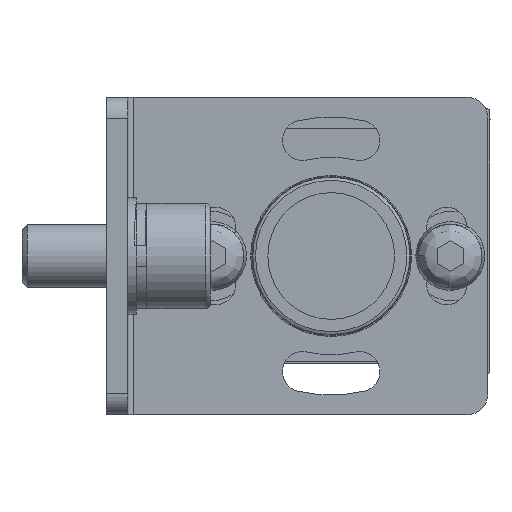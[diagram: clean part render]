
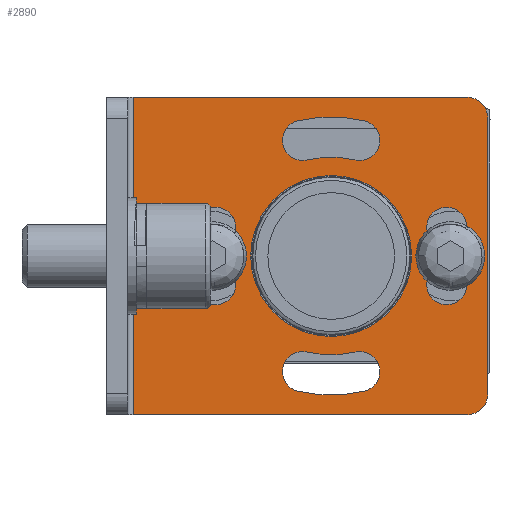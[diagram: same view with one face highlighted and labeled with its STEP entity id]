
A CAD part, front view. The second image highlights one B-rep face of the part: STEP entity #2890.
In plain terms, the highlighted planar face has unit normal (0, -1, 0).
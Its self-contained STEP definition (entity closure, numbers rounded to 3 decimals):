
#692=LINE('',#40684,#1452);
#697=LINE('',#40696,#1457);
#703=LINE('',#40712,#1463);
#707=LINE('',#40736,#1467);
#1452=VECTOR('',#13263,1.);
#1457=VECTOR('',#13272,1.);
#1463=VECTOR('',#13290,1.);
#1467=VECTOR('',#13320,1.);
#1962=PLANE('',#11082);
#2299=FACE_BOUND('',#4309,.T.);
#2300=FACE_BOUND('',#4310,.T.);
#2301=FACE_BOUND('',#4311,.T.);
#2302=FACE_BOUND('',#4312,.T.);
#2303=FACE_BOUND('',#4313,.T.);
#2304=FACE_BOUND('',#4314,.T.);
#2890=ADVANCED_FACE('',(#2299,#2300,#2301,#2302,#2303,#2304),#1962,.T.);
#4309=EDGE_LOOP('',(#6781,#6782,#6783,#6784));
#4310=EDGE_LOOP('',(#6785,#6786,#6787,#6788));
#4311=EDGE_LOOP('',(#6789,#6790,#6791,#6792));
#4312=EDGE_LOOP('',(#6793));
#4313=EDGE_LOOP('',(#6794,#6795,#6796,#6797));
#4314=EDGE_LOOP('',(#6798,#6799,#6800,#6801,#6802,#6803));
#6781=ORIENTED_EDGE('',*,*,#9603,.T.);
#6782=ORIENTED_EDGE('',*,*,#9604,.T.);
#6783=ORIENTED_EDGE('',*,*,#9542,.T.);
#6784=ORIENTED_EDGE('',*,*,#9605,.T.);
#6785=ORIENTED_EDGE('',*,*,#9606,.T.);
#6786=ORIENTED_EDGE('',*,*,#9546,.T.);
#6787=ORIENTED_EDGE('',*,*,#9607,.T.);
#6788=ORIENTED_EDGE('',*,*,#9550,.T.);
#6789=ORIENTED_EDGE('',*,*,#9608,.T.);
#6790=ORIENTED_EDGE('',*,*,#9554,.T.);
#6791=ORIENTED_EDGE('',*,*,#9609,.T.);
#6792=ORIENTED_EDGE('',*,*,#9558,.T.);
#6793=ORIENTED_EDGE('',*,*,#9563,.T.);
#6794=ORIENTED_EDGE('',*,*,#9610,.T.);
#6795=ORIENTED_EDGE('',*,*,#9611,.T.);
#6796=ORIENTED_EDGE('',*,*,#9612,.T.);
#6797=ORIENTED_EDGE('',*,*,#9564,.T.);
#6798=ORIENTED_EDGE('',*,*,#9613,.T.);
#6799=ORIENTED_EDGE('',*,*,#9614,.T.);
#6800=ORIENTED_EDGE('',*,*,#9598,.F.);
#6801=ORIENTED_EDGE('',*,*,#9584,.T.);
#6802=ORIENTED_EDGE('',*,*,#9590,.F.);
#6803=ORIENTED_EDGE('',*,*,#9615,.T.);
#8262=VERTEX_POINT('',#40594);
#8263=VERTEX_POINT('',#40595);
#8266=VERTEX_POINT('',#40603);
#8267=VERTEX_POINT('',#40604);
#8270=VERTEX_POINT('',#40612);
#8271=VERTEX_POINT('',#40613);
#8274=VERTEX_POINT('',#40621);
#8275=VERTEX_POINT('',#40622);
#8278=VERTEX_POINT('',#40630);
#8279=VERTEX_POINT('',#40631);
#8283=VERTEX_POINT('',#40641);
#8284=VERTEX_POINT('',#40644);
#8285=VERTEX_POINT('',#40645);
#8298=VERTEX_POINT('',#40681);
#8299=VERTEX_POINT('',#40683);
#8304=VERTEX_POINT('',#40695);
#8309=VERTEX_POINT('',#40713);
#8312=VERTEX_POINT('',#40723);
#8313=VERTEX_POINT('',#40724);
#8314=VERTEX_POINT('',#40732);
#8315=VERTEX_POINT('',#40734);
#8316=VERTEX_POINT('',#40737);
#8317=VERTEX_POINT('',#40738);
#9542=EDGE_CURVE('',#8262,#8263,#10244,.T.);
#9546=EDGE_CURVE('',#8266,#8267,#10246,.T.);
#9550=EDGE_CURVE('',#8270,#8271,#10248,.T.);
#9554=EDGE_CURVE('',#8274,#8275,#10250,.T.);
#9558=EDGE_CURVE('',#8278,#8279,#10252,.T.);
#9563=EDGE_CURVE('',#8283,#8283,#10255,.T.);
#9564=EDGE_CURVE('',#8284,#8285,#10256,.T.);
#9584=EDGE_CURVE('',#8298,#8299,#692,.T.);
#9590=EDGE_CURVE('',#8304,#8299,#697,.T.);
#9598=EDGE_CURVE('',#8298,#8309,#703,.T.);
#9603=EDGE_CURVE('',#8312,#8313,#10268,.T.);
#9604=EDGE_CURVE('',#8313,#8262,#10269,.T.);
#9605=EDGE_CURVE('',#8263,#8312,#10270,.T.);
#9606=EDGE_CURVE('',#8271,#8266,#10271,.T.);
#9607=EDGE_CURVE('',#8267,#8270,#10272,.T.);
#9608=EDGE_CURVE('',#8279,#8274,#10273,.T.);
#9609=EDGE_CURVE('',#8275,#8278,#10274,.T.);
#9610=EDGE_CURVE('',#8285,#8314,#10275,.T.);
#9611=EDGE_CURVE('',#8314,#8315,#10276,.T.);
#9612=EDGE_CURVE('',#8315,#8284,#10277,.T.);
#9613=EDGE_CURVE('',#8316,#8317,#707,.T.);
#9614=EDGE_CURVE('',#8317,#8309,#10278,.T.);
#9615=EDGE_CURVE('',#8304,#8316,#10279,.T.);
#10244=CIRCLE('',#11028,1.9);
#10246=CIRCLE('',#11031,13.15);
#10248=CIRCLE('',#11034,9.35);
#10250=CIRCLE('',#11037,1.9);
#10252=CIRCLE('',#11040,1.9);
#10255=CIRCLE('',#11044,7.6);
#10256=CIRCLE('',#11046,1.9);
#10268=CIRCLE('',#11070,1.9);
#10269=CIRCLE('',#11071,13.15);
#10270=CIRCLE('',#11072,9.35);
#10271=CIRCLE('',#11073,1.9);
#10272=CIRCLE('',#11074,1.9);
#10273=CIRCLE('',#11075,13.15);
#10274=CIRCLE('',#11076,9.35);
#10275=CIRCLE('',#11077,13.15);
#10276=CIRCLE('',#11078,1.9);
#10277=CIRCLE('',#11079,9.35);
#10278=CIRCLE('',#11080,2.);
#10279=CIRCLE('',#11081,2.);
#11028=AXIS2_PLACEMENT_3D('',#40593,#13179,#13180);
#11031=AXIS2_PLACEMENT_3D('',#40602,#13187,#13188);
#11034=AXIS2_PLACEMENT_3D('',#40611,#13195,#13196);
#11037=AXIS2_PLACEMENT_3D('',#40620,#13203,#13204);
#11040=AXIS2_PLACEMENT_3D('',#40629,#13211,#13212);
#11044=AXIS2_PLACEMENT_3D('',#40640,#13221,#13222);
#11046=AXIS2_PLACEMENT_3D('',#40643,#13225,#13226);
#11070=AXIS2_PLACEMENT_3D('',#40722,#13300,#13301);
#11071=AXIS2_PLACEMENT_3D('',#40725,#13302,#13303);
#11072=AXIS2_PLACEMENT_3D('',#40726,#13304,#13305);
#11073=AXIS2_PLACEMENT_3D('',#40727,#13306,#13307);
#11074=AXIS2_PLACEMENT_3D('',#40728,#13308,#13309);
#11075=AXIS2_PLACEMENT_3D('',#40729,#13310,#13311);
#11076=AXIS2_PLACEMENT_3D('',#40730,#13312,#13313);
#11077=AXIS2_PLACEMENT_3D('',#40731,#13314,#13315);
#11078=AXIS2_PLACEMENT_3D('',#40733,#13316,#13317);
#11079=AXIS2_PLACEMENT_3D('',#40735,#13318,#13319);
#11080=AXIS2_PLACEMENT_3D('',#40739,#13321,#13322);
#11081=AXIS2_PLACEMENT_3D('',#40740,#13323,#13324);
#11082=AXIS2_PLACEMENT_3D('',#40741,#13325,#13326);
#13179=DIRECTION('',(0.,1.,0.));
#13180=DIRECTION('',(0.,0.,1.));
#13187=DIRECTION('',(0.,1.,0.));
#13188=DIRECTION('',(0.,0.,1.));
#13195=DIRECTION('',(0.,-1.,0.));
#13196=DIRECTION('',(0.,0.,1.));
#13203=DIRECTION('',(0.,1.,0.));
#13204=DIRECTION('',(0.,0.,1.));
#13211=DIRECTION('',(0.,1.,0.));
#13212=DIRECTION('',(0.,0.,1.));
#13221=DIRECTION('',(0.,1.,0.));
#13222=DIRECTION('',(0.,0.,1.));
#13225=DIRECTION('',(0.,1.,0.));
#13226=DIRECTION('',(0.,0.,1.));
#13263=DIRECTION('',(0.,0.,-1.));
#13272=DIRECTION('',(-1.,0.,0.));
#13290=DIRECTION('',(1.,0.,0.));
#13300=DIRECTION('',(0.,1.,0.));
#13301=DIRECTION('',(0.,0.,1.));
#13302=DIRECTION('',(0.,1.,0.));
#13303=DIRECTION('',(0.,0.,1.));
#13304=DIRECTION('',(0.,-1.,0.));
#13305=DIRECTION('',(0.,0.,1.));
#13306=DIRECTION('',(0.,1.,0.));
#13307=DIRECTION('',(0.,0.,1.));
#13308=DIRECTION('',(0.,1.,0.));
#13309=DIRECTION('',(0.,0.,1.));
#13310=DIRECTION('',(0.,1.,0.));
#13311=DIRECTION('',(0.,0.,1.));
#13312=DIRECTION('',(0.,-1.,0.));
#13313=DIRECTION('',(0.,0.,1.));
#13314=DIRECTION('',(0.,1.,0.));
#13315=DIRECTION('',(0.,0.,1.));
#13316=DIRECTION('',(0.,1.,0.));
#13317=DIRECTION('',(0.,0.,1.));
#13318=DIRECTION('',(0.,-1.,0.));
#13319=DIRECTION('',(0.,0.,1.));
#13320=DIRECTION('',(0.,0.,1.));
#13321=DIRECTION('',(0.,-1.,0.));
#13322=DIRECTION('',(0.,0.,-1.));
#13323=DIRECTION('',(0.,-1.,0.));
#13324=DIRECTION('',(0.,0.,1.));
#13325=DIRECTION('',(0.,-1.,0.));
#13326=DIRECTION('',(1.,0.,0.));
#40593=CARTESIAN_POINT('',(-110.921,-98.,2.851));
#40594=CARTESIAN_POINT('',(-112.765,-98.,3.307));
#40595=CARTESIAN_POINT('',(-109.077,-98.,2.395));
#40602=CARTESIAN_POINT('',(-100.,-98.,0.15));
#40603=CARTESIAN_POINT('',(-103.157,-98.,12.915));
#40604=CARTESIAN_POINT('',(-96.843,-98.,12.915));
#40611=CARTESIAN_POINT('',(-100.,-98.,0.15));
#40612=CARTESIAN_POINT('',(-97.755,-98.,9.227));
#40613=CARTESIAN_POINT('',(-102.245,-98.,9.227));
#40620=CARTESIAN_POINT('',(-102.701,-98.,-10.771));
#40621=CARTESIAN_POINT('',(-103.157,-98.,-12.615));
#40622=CARTESIAN_POINT('',(-102.245,-98.,-8.927));
#40629=CARTESIAN_POINT('',(-97.299,-98.,-10.771));
#40630=CARTESIAN_POINT('',(-97.755,-98.,-8.927));
#40631=CARTESIAN_POINT('',(-96.843,-98.,-12.615));
#40640=CARTESIAN_POINT('',(-100.,-98.,0.15));
#40641=CARTESIAN_POINT('',(-100.,-98.,7.75));
#40643=CARTESIAN_POINT('',(-89.079,-98.,2.851));
#40644=CARTESIAN_POINT('',(-90.923,-98.,2.395));
#40645=CARTESIAN_POINT('',(-87.235,-98.,3.307));
#40681=CARTESIAN_POINT('',(-118.7,-98.,15.15));
#40683=CARTESIAN_POINT('',(-118.7,-98.,-14.85));
#40684=CARTESIAN_POINT('',(-118.7,-98.,15.15));
#40695=CARTESIAN_POINT('',(-87.2,-98.,-14.85));
#40696=CARTESIAN_POINT('',(-118.7,-98.,-14.85));
#40712=CARTESIAN_POINT('',(-118.7,-98.,15.15));
#40713=CARTESIAN_POINT('',(-87.2,-98.,15.15));
#40722=CARTESIAN_POINT('',(-110.921,-98.,-2.551));
#40723=CARTESIAN_POINT('',(-109.077,-98.,-2.095));
#40724=CARTESIAN_POINT('',(-112.765,-98.,-3.007));
#40725=CARTESIAN_POINT('',(-100.,-98.,0.15));
#40726=CARTESIAN_POINT('',(-100.,-98.,0.15));
#40727=CARTESIAN_POINT('',(-102.701,-98.,11.071));
#40728=CARTESIAN_POINT('',(-97.299,-98.,11.071));
#40729=CARTESIAN_POINT('',(-100.,-98.,0.15));
#40730=CARTESIAN_POINT('',(-100.,-98.,0.15));
#40731=CARTESIAN_POINT('',(-100.,-98.,0.15));
#40732=CARTESIAN_POINT('',(-87.235,-98.,-3.007));
#40733=CARTESIAN_POINT('',(-89.079,-98.,-2.551));
#40734=CARTESIAN_POINT('',(-90.923,-98.,-2.095));
#40735=CARTESIAN_POINT('',(-100.,-98.,0.15));
#40736=CARTESIAN_POINT('',(-85.2,-98.,15.15));
#40737=CARTESIAN_POINT('',(-85.2,-98.,-12.85));
#40738=CARTESIAN_POINT('',(-85.2,-98.,13.15));
#40739=CARTESIAN_POINT('',(-87.2,-98.,13.15));
#40740=CARTESIAN_POINT('',(-87.2,-98.,-12.85));
#40741=CARTESIAN_POINT('',(-85.2,-98.,15.15));
